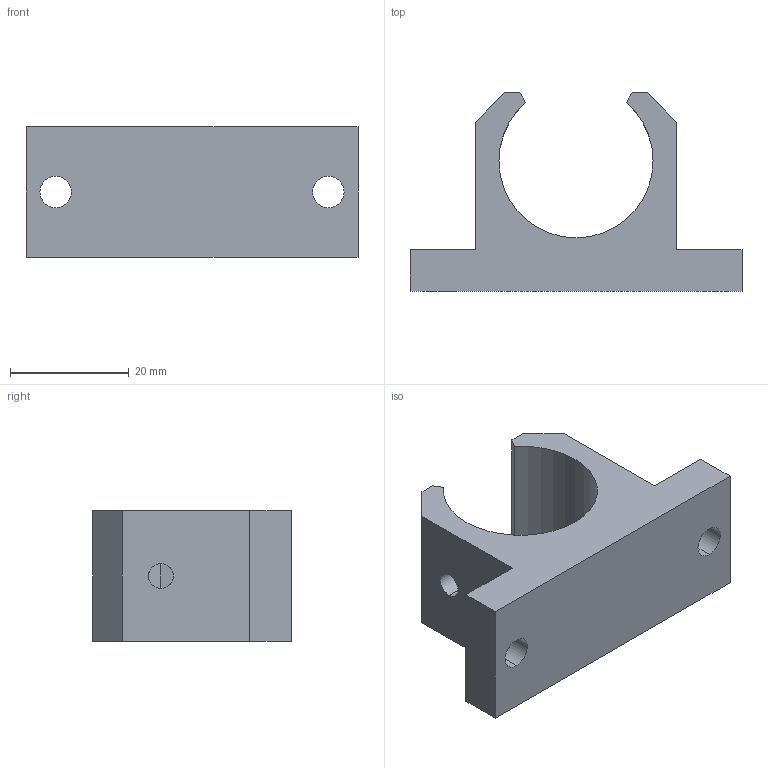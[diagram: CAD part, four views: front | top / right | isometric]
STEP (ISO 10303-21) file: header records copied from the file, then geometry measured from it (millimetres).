
FILE_DESCRIPTION (( 'STEP AP214' ), '1' );
FILE_NAME ('KALGSO-16.step', '2020-03-04T13:15:52', ( '' ), ( '' ), 'SwSTEP 2.0', 'SolidWorks 2019', '' );
FILE_SCHEMA (( 'AUTOMOTIVE_DESIGN' ));
Length unit declared in the file: millimetre
Products named in the file (1): KALGSO-16
Bounding box: 56 x 33.5 x 22 mm (x, y, z)
Volume: 16003.5 mm3; surface area: 6525.8 mm2
Topology: 1 solids, 1 shells, 24 faces, 67 edges, 44 vertices
Faces by surface type: plane 15, cylinder 9
Entity records: 891 total; most frequent: CARTESIAN_POINT 192, ORIENTED_EDGE 134, DIRECTION 131, EDGE_CURVE 67, VECTOR 49, LINE 49, VERTEX_POINT 44, AXIS2_PLACEMENT_3D 41
